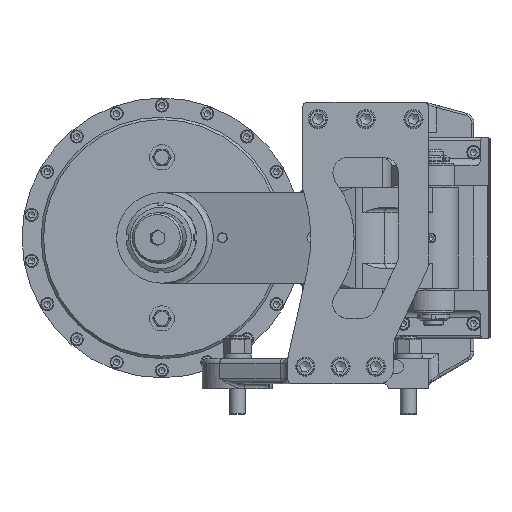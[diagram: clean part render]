
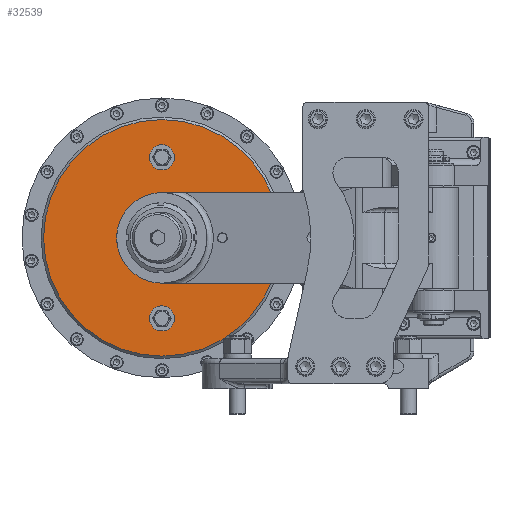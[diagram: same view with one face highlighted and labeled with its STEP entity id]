
A CAD part, left-side view. The second image highlights one B-rep face of the part: STEP entity #32539.
In plain terms, the highlighted planar face has unit normal (-1, 0, 0).
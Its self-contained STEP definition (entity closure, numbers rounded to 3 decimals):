
#1041=FACE_BOUND('',#4202,.T.);
#1042=FACE_BOUND('',#4203,.T.);
#1043=FACE_BOUND('',#4204,.T.);
#1305=PLANE('',#34409);
#2400=FACE_OUTER_BOUND('',#4201,.T.);
#4201=EDGE_LOOP('',(#20867));
#4202=EDGE_LOOP('',(#20868,#20869));
#4203=EDGE_LOOP('',(#20870,#20871));
#4204=EDGE_LOOP('',(#20872,#20873));
#10834=CIRCLE('',#34410,117.5);
#10835=CIRCLE('',#34411,12.5);
#10836=CIRCLE('',#34412,12.5);
#10837=CIRCLE('',#34413,12.5);
#10838=CIRCLE('',#34414,12.5);
#10839=CIRCLE('',#34415,45.);
#10840=CIRCLE('',#34416,45.);
#12651=VERTEX_POINT('',#47769);
#12652=VERTEX_POINT('',#47771);
#12653=VERTEX_POINT('',#47772);
#12654=VERTEX_POINT('',#47775);
#12655=VERTEX_POINT('',#47776);
#12656=VERTEX_POINT('',#47779);
#12657=VERTEX_POINT('',#47780);
#15899=EDGE_CURVE('',#12651,#12651,#10834,.T.);
#15900=EDGE_CURVE('',#12652,#12653,#10835,.T.);
#15901=EDGE_CURVE('',#12653,#12652,#10836,.T.);
#15902=EDGE_CURVE('',#12654,#12655,#10837,.T.);
#15903=EDGE_CURVE('',#12655,#12654,#10838,.T.);
#15904=EDGE_CURVE('',#12656,#12657,#10839,.T.);
#15905=EDGE_CURVE('',#12657,#12656,#10840,.T.);
#20867=ORIENTED_EDGE('',*,*,#15899,.F.);
#20868=ORIENTED_EDGE('',*,*,#15900,.T.);
#20869=ORIENTED_EDGE('',*,*,#15901,.T.);
#20870=ORIENTED_EDGE('',*,*,#15902,.T.);
#20871=ORIENTED_EDGE('',*,*,#15903,.T.);
#20872=ORIENTED_EDGE('',*,*,#15904,.F.);
#20873=ORIENTED_EDGE('',*,*,#15905,.F.);
#32539=ADVANCED_FACE('',(#2400,#1041,#1042,#1043),#1305,.T.);
#34409=AXIS2_PLACEMENT_3D('',#47768,#38194,#38195);
#34410=AXIS2_PLACEMENT_3D('',#47770,#38196,#38197);
#34411=AXIS2_PLACEMENT_3D('',#47773,#38198,#38199);
#34412=AXIS2_PLACEMENT_3D('',#47774,#38200,#38201);
#34413=AXIS2_PLACEMENT_3D('',#47777,#38202,#38203);
#34414=AXIS2_PLACEMENT_3D('',#47778,#38204,#38205);
#34415=AXIS2_PLACEMENT_3D('',#47781,#38206,#38207);
#34416=AXIS2_PLACEMENT_3D('',#47782,#38208,#38209);
#38194=DIRECTION('center_axis',(-1.,0.,0.));
#38195=DIRECTION('ref_axis',(0.,-1.,0.));
#38196=DIRECTION('center_axis',(1.,0.,0.));
#38197=DIRECTION('ref_axis',(0.,0.,
-1.));
#38198=DIRECTION('center_axis',(1.,0.,0.));
#38199=DIRECTION('ref_axis',(0.,-1.,0.));
#38200=DIRECTION('center_axis',(1.,0.,0.));
#38201=DIRECTION('ref_axis',(0.,-1.,0.));
#38202=DIRECTION('center_axis',(1.,0.,0.));
#38203=DIRECTION('ref_axis',(0.,1.,0.));
#38204=DIRECTION('center_axis',(1.,0.,0.));
#38205=DIRECTION('ref_axis',(0.,1.,0.));
#38206=DIRECTION('center_axis',(-1.,0.,0.));
#38207=DIRECTION('ref_axis',(0.,0.,
1.));
#38208=DIRECTION('center_axis',(-1.,0.,0.));
#38209=DIRECTION('ref_axis',(0.,0.,
1.));
#47768=CARTESIAN_POINT('Origin',(97.1,310.,223.));
#47769=CARTESIAN_POINT('',(97.1,310.,267.5));
#47770=CARTESIAN_POINT('Origin',(97.1,310.,150.));
#47771=CARTESIAN_POINT('',(97.1,297.5,230.));
#47772=CARTESIAN_POINT('',(97.1,322.5,230.));
#47773=CARTESIAN_POINT('Origin',(97.1,310.,230.));
#47774=CARTESIAN_POINT('Origin',(97.1,310.,230.));
#47775=CARTESIAN_POINT('',(97.1,322.5,70.));
#47776=CARTESIAN_POINT('',(97.1,297.5,70.));
#47777=CARTESIAN_POINT('Origin',(97.1,310.,70.));
#47778=CARTESIAN_POINT('Origin',(97.1,310.,70.));
#47779=CARTESIAN_POINT('',(97.1,310.,105.));
#47780=CARTESIAN_POINT('',(97.1,310.,195.));
#47781=CARTESIAN_POINT('Origin',(97.1,310.,150.));
#47782=CARTESIAN_POINT('Origin',(97.1,310.,150.));
